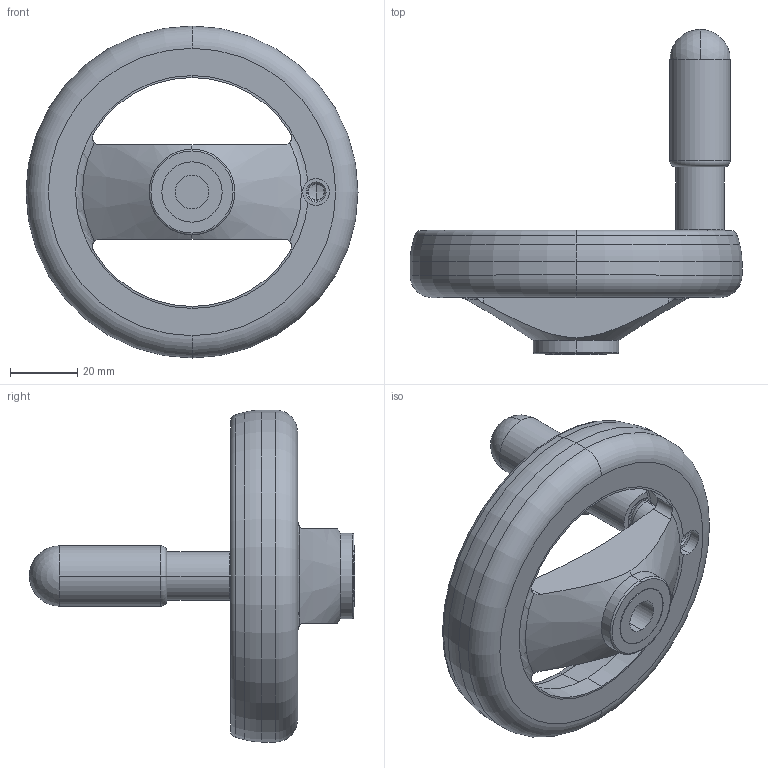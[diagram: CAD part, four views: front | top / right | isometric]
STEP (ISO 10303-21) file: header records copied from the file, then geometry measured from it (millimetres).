
FILE_DESCRIPTION (( 'STEP AP214' ), '1' );
FILE_NAME ('2.9018 Käsipyörä D100.STEP', '2025-09-23T06:17:54', ( '' ), ( '' ), 'SwSTEP 2.0', 'SolidWorks 2025', '' );
FILE_SCHEMA (( 'AUTOMOTIVE_DESIGN' ));
Length unit declared in the file: millimetre
Products named in the file (1): 2.9018 Käsipyörä D100
Bounding box: 99 x 97 x 99 mm (x, y, z)
Surface area: 26012 mm2 (no closed solid volume)
Topology: 0 solids, 2 shells, 73 faces, 184 edges, 112 vertices
Faces by surface type: cylinder 28, torus 20, cone 13, plane 10, sphere 2
Entity records: 3564 total; most frequent: CARTESIAN_POINT 980, DIRECTION 403, ORIENTED_EDGE 356, EDGE_CURVE 182, AXIS2_PLACEMENT_3D 180, VERTEX_POINT 112, CIRCLE 106, EDGE_LOOP 80
